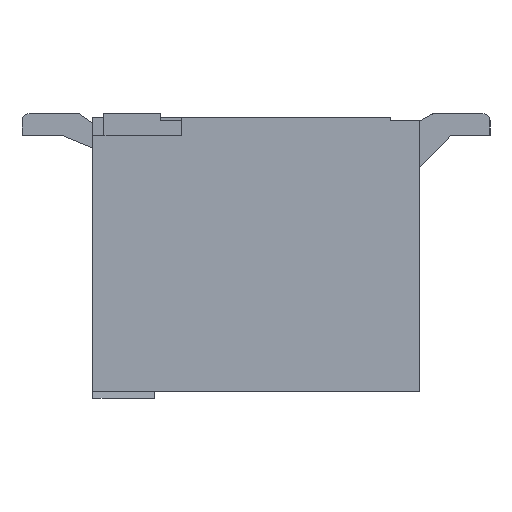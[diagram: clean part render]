
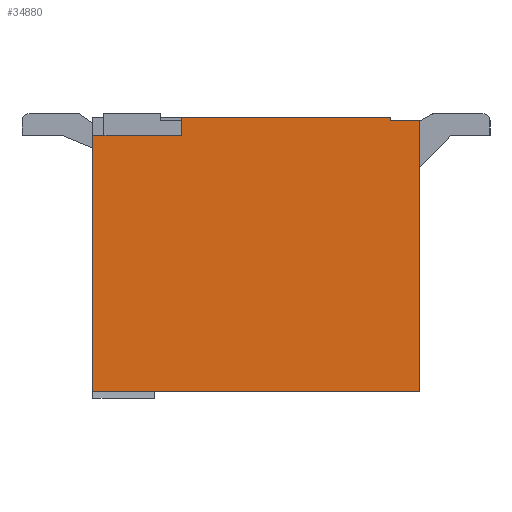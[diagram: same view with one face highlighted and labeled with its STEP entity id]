
A CAD part, left-side view. The second image highlights one B-rep face of the part: STEP entity #34880.
In plain terms, the highlighted planar face has unit normal (-1, 0, 0).
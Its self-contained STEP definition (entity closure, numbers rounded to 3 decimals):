
#1=DIRECTION('',(0.,1.,0.));
#2=VECTOR('',#1,0.4);
#3=CARTESIAN_POINT('',(0.,-4.6,3.81));
#4=LINE('',#3,#2);
#5=DIRECTION('',(0.,0.,-1.));
#6=VECTOR('',#5,3.81);
#7=CARTESIAN_POINT('',(0.,-4.6,3.81));
#8=LINE('',#7,#6);
#9=DIRECTION('',(0.,1.,0.));
#10=VECTOR('',#9,4.6);
#11=CARTESIAN_POINT('',(0.,-4.6,0.));
#12=LINE('',#11,#10);
#13=DIRECTION('',(0.,0.,1.));
#14=VECTOR('',#13,3.61);
#15=CARTESIAN_POINT('',(0.,0.,0.));
#16=LINE('',#15,#14);
#17=DIRECTION('',(0.,-1.,0.));
#18=VECTOR('',#17,1.25);
#19=CARTESIAN_POINT('',(0.,0.,3.61));
#20=LINE('',#19,#18);
#21=DIRECTION('',(0.,0.,-1.));
#22=VECTOR('',#21,0.25);
#23=CARTESIAN_POINT('',(0.,-1.25,3.86));
#24=LINE('',#23,#22);
#25=DIRECTION('',(0.,-1.,0.));
#26=VECTOR('',#25,2.95);
#27=CARTESIAN_POINT('',(0.,-1.25,3.86));
#28=LINE('',#27,#26);
#29=DIRECTION('',(0.,0.,-1.));
#30=VECTOR('',#29,0.05);
#31=CARTESIAN_POINT('',(0.,-4.2,3.86));
#32=LINE('',#31,#30);
#26541=CARTESIAN_POINT('',(0.,-4.6,0.));
#26542=CARTESIAN_POINT('',(0.,0.,0.));
#26543=VERTEX_POINT('',#26541);
#26544=VERTEX_POINT('',#26542);
#26577=CARTESIAN_POINT('',(0.,-1.25,3.86));
#26578=CARTESIAN_POINT('',(0.,-1.25,3.61));
#26579=VERTEX_POINT('',#26577);
#26580=VERTEX_POINT('',#26578);
#26581=CARTESIAN_POINT('',(0.,0.,3.61));
#26582=VERTEX_POINT('',#26581);
#26635=CARTESIAN_POINT('',(0.,-4.6,3.81));
#26636=CARTESIAN_POINT('',(0.,-4.2,3.81));
#26637=VERTEX_POINT('',#26635);
#26638=VERTEX_POINT('',#26636);
#26639=CARTESIAN_POINT('',(0.,-4.2,3.86));
#26640=VERTEX_POINT('',#26639);
#34857=CARTESIAN_POINT('',(0.,0.,0.));
#34858=DIRECTION('',(1.,0.,0.));
#34859=DIRECTION('',(0.,-1.,0.));
#34860=AXIS2_PLACEMENT_3D('',#34857,#34858,#34859);
#34861=PLANE('',#34860);
#34863=ORIENTED_EDGE('',*,*,#34862,.F.);
#34865=ORIENTED_EDGE('',*,*,#34864,.T.);
#34867=ORIENTED_EDGE('',*,*,#34866,.T.);
#34869=ORIENTED_EDGE('',*,*,#34868,.T.);
#34871=ORIENTED_EDGE('',*,*,#34870,.T.);
#34873=ORIENTED_EDGE('',*,*,#34872,.F.);
#34875=ORIENTED_EDGE('',*,*,#34874,.T.);
#34877=ORIENTED_EDGE('',*,*,#34876,.T.);
#34878=EDGE_LOOP('',(#34863,#34865,#34867,#34869,#34871,#34873,#34875,#34877));
#34879=FACE_OUTER_BOUND('',#34878,.F.);
#34880=ADVANCED_FACE('',(#34879),#34861,.F.);
#34862=EDGE_CURVE('',#26637,#26638,#4,.T.);
#34864=EDGE_CURVE('',#26637,#26543,#8,.T.);
#34866=EDGE_CURVE('',#26543,#26544,#12,.T.);
#34868=EDGE_CURVE('',#26544,#26582,#16,.T.);
#34870=EDGE_CURVE('',#26582,#26580,#20,.T.);
#34872=EDGE_CURVE('',#26579,#26580,#24,.T.);
#34874=EDGE_CURVE('',#26579,#26640,#28,.T.);
#34876=EDGE_CURVE('',#26640,#26638,#32,.T.);
